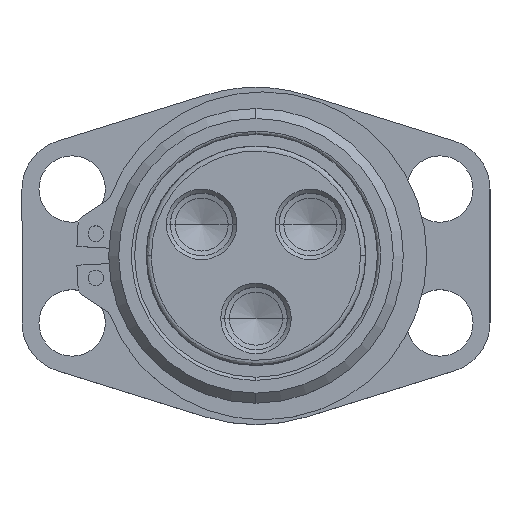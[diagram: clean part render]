
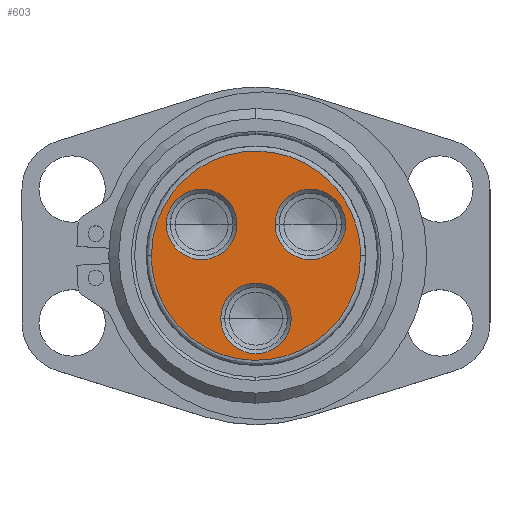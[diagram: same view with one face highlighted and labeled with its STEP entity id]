
A CAD part, top view. The second image highlights one B-rep face of the part: STEP entity #603.
In plain terms, the highlighted planar face has unit normal (0, 0, 1).
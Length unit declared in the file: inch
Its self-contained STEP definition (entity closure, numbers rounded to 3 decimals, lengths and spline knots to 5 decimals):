
#1 = DIRECTION ( 'NONE',  ( 0., 0., -1. ) ) ;
#78 = CIRCLE ( 'NONE', #2738, 0.28095 ) ;
#103 = CARTESIAN_POINT ( 'NONE',  ( 0.43301, 0.25, 0. ) ) ;
#342 = CARTESIAN_POINT ( 'NONE',  ( 0.43301, 0.25, 0. ) ) ;
#378 = CARTESIAN_POINT ( 'NONE',  ( 0., -0.5, 0. ) ) ;
#405 = CARTESIAN_POINT ( 'NONE',  ( -0.43301, 0.25, 0. ) ) ;
#467 = DIRECTION ( 'NONE',  ( 0., 0., -1. ) ) ;
#476 = ORIENTED_EDGE ( 'NONE', *, *, #4829, .F. ) ;
#502 = ORIENTED_EDGE ( 'NONE', *, *, #2565, .F. ) ;
#507 = CARTESIAN_POINT ( 'NONE',  ( 0.8341, 0., 0. ) ) ;
#603 = ADVANCED_FACE ( 'NONE', ( #4131, #3593, #2939, #608 ), #1331, .T. ) ;
#608 = FACE_BOUND ( 'NONE', #2870, .T. ) ;
#617 = CARTESIAN_POINT ( 'NONE',  ( 0.8341, 0., 0. ) ) ;
#689 = ORIENTED_EDGE ( 'NONE', *, *, #1425, .T. ) ;
#747 =( BOUNDED_CURVE ( )  B_SPLINE_CURVE ( 3, ( #3307, #2883, #3264, #4812 ),
 .UNSPECIFIED., .F., .T. ) 
 B_SPLINE_CURVE_WITH_KNOTS ( ( 4, 4 ),
 ( 0., 1. ),
 .UNSPECIFIED. ) 
 CURVE ( )  GEOMETRIC_REPRESENTATION_ITEM ( )  RATIONAL_B_SPLINE_CURVE ( ( 1., 0.333, 0.333, 1. ) ) 
 REPRESENTATION_ITEM ( '' )  );
#753 = DIRECTION ( 'NONE',  ( 1., 0., 0. ) ) ;
#759 = DIRECTION ( 'NONE',  ( 1., 0., 0. ) ) ;
#762 = EDGE_LOOP ( 'NONE', ( #899, #2613 ) ) ;
#785 = DIRECTION ( 'NONE',  ( 0., 0., -1. ) ) ;
#805 = AXIS2_PLACEMENT_3D ( 'NONE', #4115, #785, #759 ) ;
#899 = ORIENTED_EDGE ( 'NONE', *, *, #2747, .T. ) ;
#947 = EDGE_CURVE ( 'NONE', #3916, #3927, #4721, .T. ) ;
#1028 = VERTEX_POINT ( 'NONE', #4846 ) ;
#1331 = PLANE ( 'NONE',  #2380 ) ;
#1422 = CARTESIAN_POINT ( 'NONE',  ( -0.71396, 0.25, 0. ) ) ;
#1425 = EDGE_CURVE ( 'NONE', #4006, #2780, #1988, .T. ) ;
#1572 = AXIS2_PLACEMENT_3D ( 'NONE', #378, #1, #3717 ) ;
#1710 = AXIS2_PLACEMENT_3D ( 'NONE', #103, #467, #753 ) ;
#1721 = DIRECTION ( 'NONE',  ( 0., 0., 1. ) ) ;
#1756 = EDGE_CURVE ( 'NONE', #3927, #3916, #3448, .T. ) ;
#1821 = CARTESIAN_POINT ( 'NONE',  ( 0., -0.5, 0. ) ) ;
#1870 = CARTESIAN_POINT ( 'NONE',  ( 0.71396, 0.25, 0. ) ) ;
#1988 = CIRCLE ( 'NONE', #3961, 0.28095 ) ;
#2061 = EDGE_CURVE ( 'NONE', #2780, #4006, #4388, .T. ) ;
#2087 = EDGE_LOOP ( 'NONE', ( #476, #502 ) ) ;
#2213 = ORIENTED_EDGE ( 'NONE', *, *, #947, .T. ) ;
#2234 = CARTESIAN_POINT ( 'NONE',  ( -0.8341, 0., 0. ) ) ;
#2380 = AXIS2_PLACEMENT_3D ( 'NONE', #3551, #1721, #4305 ) ;
#2405 = CARTESIAN_POINT ( 'NONE',  ( -0.8341, 1.6682, 0. ) ) ;
#2407 = EDGE_LOOP ( 'NONE', ( #2213, #2972 ) ) ;
#2565 = EDGE_CURVE ( 'NONE', #3053, #2692, #747, .T. ) ;
#2599 = DIRECTION ( 'NONE',  ( 1., 0., 0. ) ) ;
#2613 = ORIENTED_EDGE ( 'NONE', *, *, #4008, .T. ) ;
#2692 = VERTEX_POINT ( 'NONE', #2234 ) ;
#2729 =( BOUNDED_CURVE ( )  B_SPLINE_CURVE ( 3, ( #3883, #2405, #3920, #507 ),
 .UNSPECIFIED., .F., .F. ) 
 B_SPLINE_CURVE_WITH_KNOTS ( ( 4, 4 ),
 ( 0., 1. ),
 .UNSPECIFIED. ) 
 CURVE ( )  GEOMETRIC_REPRESENTATION_ITEM ( )  RATIONAL_B_SPLINE_CURVE ( ( 1., 0.333, 0.333, 1. ) ) 
 REPRESENTATION_ITEM ( '' )  );
#2738 = AXIS2_PLACEMENT_3D ( 'NONE', #342, #2908, #4427 ) ;
#2747 = EDGE_CURVE ( 'NONE', #2847, #1028, #3896, .T. ) ;
#2780 = VERTEX_POINT ( 'NONE', #1422 ) ;
#2847 = VERTEX_POINT ( 'NONE', #1870 ) ;
#2870 = EDGE_LOOP ( 'NONE', ( #689, #4089 ) ) ;
#2883 = CARTESIAN_POINT ( 'NONE',  ( 0.8341, -1.6682, 0. ) ) ;
#2908 = DIRECTION ( 'NONE',  ( 0., 0., -1. ) ) ;
#2923 = CARTESIAN_POINT ( 'NONE',  ( -0.15206, 0.25, 0. ) ) ;
#2939 = FACE_BOUND ( 'NONE', #762, .T. ) ;
#2972 = ORIENTED_EDGE ( 'NONE', *, *, #1756, .T. ) ;
#3053 = VERTEX_POINT ( 'NONE', #617 ) ;
#3264 = CARTESIAN_POINT ( 'NONE',  ( -0.8341, -1.6682, 0. ) ) ;
#3307 = CARTESIAN_POINT ( 'NONE',  ( 0.8341, 0., 0. ) ) ;
#3448 = CIRCLE ( 'NONE', #3581, 0.28095 ) ;
#3551 = CARTESIAN_POINT ( 'NONE',  ( 0., 0., 0. ) ) ;
#3581 = AXIS2_PLACEMENT_3D ( 'NONE', #1821, #4061, #2599 ) ;
#3593 = FACE_BOUND ( 'NONE', #2407, .T. ) ;
#3701 = CARTESIAN_POINT ( 'NONE',  ( 0.28095, -0.5, 0. ) ) ;
#3717 = DIRECTION ( 'NONE',  ( 1., 0., 0. ) ) ;
#3883 = CARTESIAN_POINT ( 'NONE',  ( -0.8341, 0., 0. ) ) ;
#3896 = CIRCLE ( 'NONE', #1710, 0.28095 ) ;
#3916 = VERTEX_POINT ( 'NONE', #3701 ) ;
#3920 = CARTESIAN_POINT ( 'NONE',  ( 0.8341, 1.6682, 0. ) ) ;
#3927 = VERTEX_POINT ( 'NONE', #4832 ) ;
#3961 = AXIS2_PLACEMENT_3D ( 'NONE', #405, #4116, #4134 ) ;
#4006 = VERTEX_POINT ( 'NONE', #2923 ) ;
#4008 = EDGE_CURVE ( 'NONE', #1028, #2847, #78, .T. ) ;
#4061 = DIRECTION ( 'NONE',  ( 0., 0., -1. ) ) ;
#4089 = ORIENTED_EDGE ( 'NONE', *, *, #2061, .T. ) ;
#4115 = CARTESIAN_POINT ( 'NONE',  ( -0.43301, 0.25, 0. ) ) ;
#4116 = DIRECTION ( 'NONE',  ( 0., 0., -1. ) ) ;
#4131 = FACE_OUTER_BOUND ( 'NONE', #2087, .T. ) ;
#4134 = DIRECTION ( 'NONE',  ( 1., 0., 0. ) ) ;
#4305 = DIRECTION ( 'NONE',  ( 1., 0., 0. ) ) ;
#4388 = CIRCLE ( 'NONE', #805, 0.28095 ) ;
#4427 = DIRECTION ( 'NONE',  ( 1., 0., 0. ) ) ;
#4721 = CIRCLE ( 'NONE', #1572, 0.28095 ) ;
#4812 = CARTESIAN_POINT ( 'NONE',  ( -0.8341, 0., 0. ) ) ;
#4829 = EDGE_CURVE ( 'NONE', #2692, #3053, #2729, .T. ) ;
#4832 = CARTESIAN_POINT ( 'NONE',  ( -0.28095, -0.5, 0. ) ) ;
#4846 = CARTESIAN_POINT ( 'NONE',  ( 0.15206, 0.25, 0. ) ) ;
